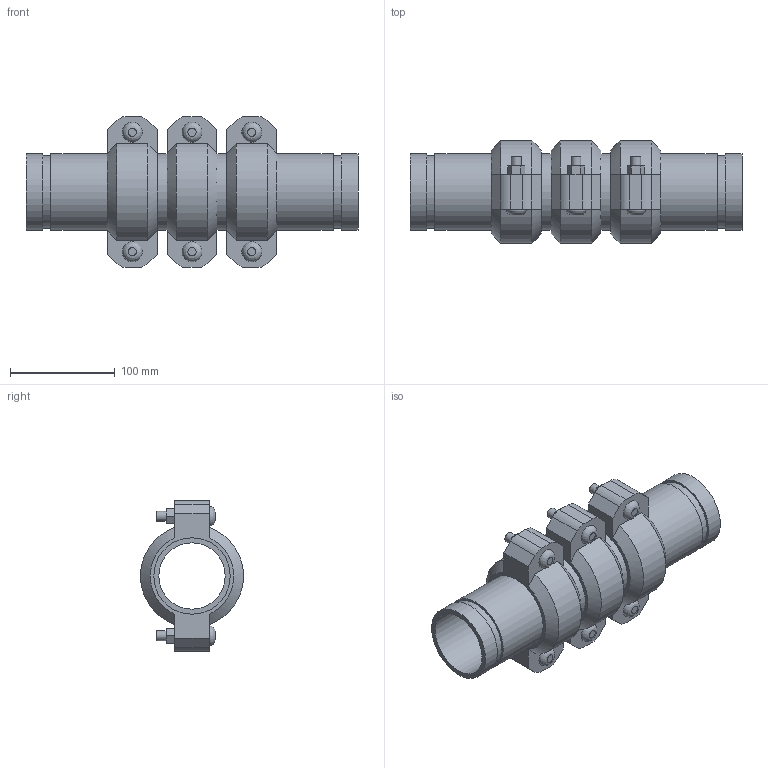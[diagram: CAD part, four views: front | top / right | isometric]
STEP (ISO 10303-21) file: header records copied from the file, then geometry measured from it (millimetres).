
FILE_DESCRIPTION(/* description */ ('VIC EXPANSION JOINT 3 COUPLINGS COMPRESSED STYLE 155 (OGS)','CAx-IF Rec.Pracs.---Representation and Presentation of Product Manufacturing Information (PMI)---4.0---2014-10-13'),/* implementation_level */ '2;1');
FILE_NAME(/* name */ 'C:\Users\kkamble\AppData\Roaming\Autodesk\ApplicationPlugins\Victaulic.Temp\A971\Victaulic_IPS_Expansion Joint_Compressed_3 Couplings_Style 155 (OGS)_2.5 (65).stp',/* time_stamp */ '2021-06-27T00:25:18+02:00',/* author */ ('kkamble'),/* organization */ ('Victaulic'),/* preprocessor_version */ 'ST-DEVELOPER v17.2',/* originating_system */ 'Autodesk Inventor 2019',/* authorisation */ '');
FILE_SCHEMA (('AP242_MANAGED_MODEL_BASED_3D_ENGINEERING_MIM_LF { 1 0 10303 442 1 1 4 }'));
Length unit declared in the file: inch
Products named in the file (4): 155-02.5; Nipple-02.5; Nipple-02.5_1; 075-02.5
Assembly tree (7 placements, depth 2):
  155-02.5
    Nipple-02.5  x2
    Nipple-02.5_1  x2
    075-02.5  x3
Bounding box: 317.5 x 98.22 x 144.27 mm (x, y, z)
Volume: 940763.2 mm3; surface area: 278579.9 mm2
Topology: 7 solids, 13 shells, 207 faces, 501 edges, 354 vertices
Faces by surface type: plane 126, cylinder 63, cone 12, bspline 6
Full cylindrical faces by diameter (mm): 9.525 x12, 11.43 x6, 63.475 x4, 69.088 x8, 73.025 x15
Entity records: 2675 total; most frequent: CARTESIAN_POINT 477, DIRECTION 439, ORIENTED_EDGE 374, EDGE_CURVE 187, AXIS2_PLACEMENT_3D 174, VERTEX_POINT 134, EDGE_LOOP 101, LINE 91
